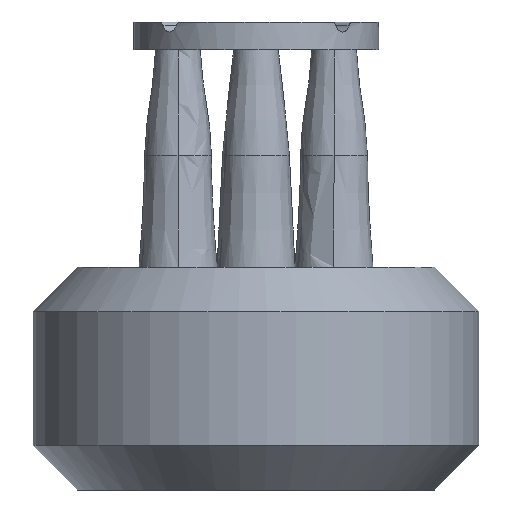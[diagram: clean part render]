
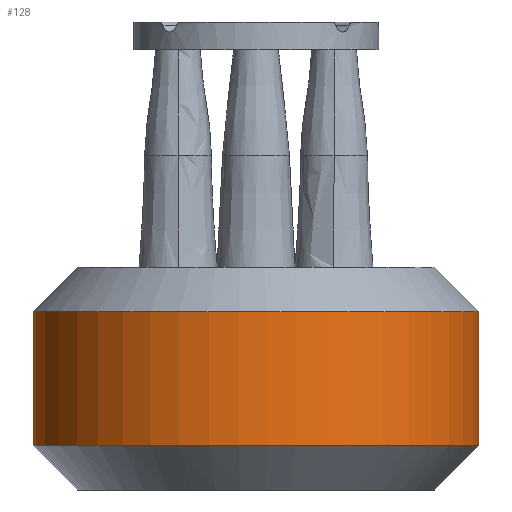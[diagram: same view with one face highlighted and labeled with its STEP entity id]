
A CAD part, front view. The second image highlights one B-rep face of the part: STEP entity #128.
In plain terms, the highlighted cylindrical face has radius 2 mm (diameter 4 mm), a partial arc.
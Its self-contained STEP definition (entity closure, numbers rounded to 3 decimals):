
#128=ADVANCED_FACE('',(#236),#1699,.T.);
#236=FACE_OUTER_BOUND('',#353,.T.);
#353=EDGE_LOOP('',(#882,#883,#884,#885));
#882=ORIENTED_EDGE('',*,*,#1157,.T.);
#883=ORIENTED_EDGE('',*,*,#1122,.T.);
#884=ORIENTED_EDGE('',*,*,#1158,.F.);
#885=ORIENTED_EDGE('',*,*,#1156,.F.);
#1122=EDGE_CURVE('',#1572,#1573,#1395,.T.);
#1156=EDGE_CURVE('',#1594,#1595,#1427,.T.);
#1157=EDGE_CURVE('',#1594,#1572,#1428,.T.);
#1158=EDGE_CURVE('',#1595,#1573,#1429,.T.);
#1395=(
BOUNDED_CURVE()
B_SPLINE_CURVE(1,(#3670,#3671),.UNSPECIFIED.,.F.,.F.)
B_SPLINE_CURVE_WITH_KNOTS((2,2),(0.4,1.6),.UNSPECIFIED.)
CURVE()
GEOMETRIC_REPRESENTATION_ITEM()
RATIONAL_B_SPLINE_CURVE((1.,1.))
REPRESENTATION_ITEM('')
);
#1427=(
BOUNDED_CURVE()
B_SPLINE_CURVE(1,(#3818,#3819),.UNSPECIFIED.,.F.,.F.)
B_SPLINE_CURVE_WITH_KNOTS((2,2),(0.4,1.6),.UNSPECIFIED.)
CURVE()
GEOMETRIC_REPRESENTATION_ITEM()
RATIONAL_B_SPLINE_CURVE((1.,1.))
REPRESENTATION_ITEM('')
);
#1428=(
BOUNDED_CURVE()
B_SPLINE_CURVE(2,(#3820,#3821,#3822,#3823,#3824),.UNSPECIFIED.,.F.,.F.)
B_SPLINE_CURVE_WITH_KNOTS((3,2,3),(5.026,7.54,10.053),
 .UNSPECIFIED.)
CURVE()
GEOMETRIC_REPRESENTATION_ITEM()
RATIONAL_B_SPLINE_CURVE((1.,0.707,1.,0.707,1.))
REPRESENTATION_ITEM('')
);
#1429=(
BOUNDED_CURVE()
B_SPLINE_CURVE(2,(#3825,#3826,#3827,#3828,#3829),.UNSPECIFIED.,.F.,.F.)
B_SPLINE_CURVE_WITH_KNOTS((3,2,3),(5.026,7.54,10.053),
 .UNSPECIFIED.)
CURVE()
GEOMETRIC_REPRESENTATION_ITEM()
RATIONAL_B_SPLINE_CURVE((1.,0.707,1.,0.707,1.))
REPRESENTATION_ITEM('')
);
#1572=VERTEX_POINT('',#2728);
#1573=VERTEX_POINT('',#2729);
#1594=VERTEX_POINT('',#2750);
#1595=VERTEX_POINT('',#2751);
#1699=CYLINDRICAL_SURFACE('',#1840,2.);
#1840=AXIS2_PLACEMENT_3D('',#2408,#1916,$);
#1916=DIRECTION('',(0.,0.,1.));
#2408=CARTESIAN_POINT('',(0.,0.,1.));
#2728=CARTESIAN_POINT('',(2.,0.,0.4));
#2729=CARTESIAN_POINT('',(2.,0.,1.6));
#2750=CARTESIAN_POINT('',(-2.,0.,0.4));
#2751=CARTESIAN_POINT('',(-2.,0.,1.6));
#3670=CARTESIAN_POINT('',(2.,0.,0.4));
#3671=CARTESIAN_POINT('',(2.,0.,1.6));
#3818=CARTESIAN_POINT('',(-2.,0.,0.4));
#3819=CARTESIAN_POINT('',(-2.,0.,1.6));
#3820=CARTESIAN_POINT('',(-2.,0.,0.4));
#3821=CARTESIAN_POINT('',(-2.,-2.,0.4));
#3822=CARTESIAN_POINT('',(0.,-2.,0.4));
#3823=CARTESIAN_POINT('',(2.,-2.,0.4));
#3824=CARTESIAN_POINT('',(2.,0.,0.4));
#3825=CARTESIAN_POINT('',(-2.,0.,1.6));
#3826=CARTESIAN_POINT('',(-2.,-2.,1.6));
#3827=CARTESIAN_POINT('',(0.,-2.,1.6));
#3828=CARTESIAN_POINT('',(2.,-2.,1.6));
#3829=CARTESIAN_POINT('',(2.,0.,1.6));
